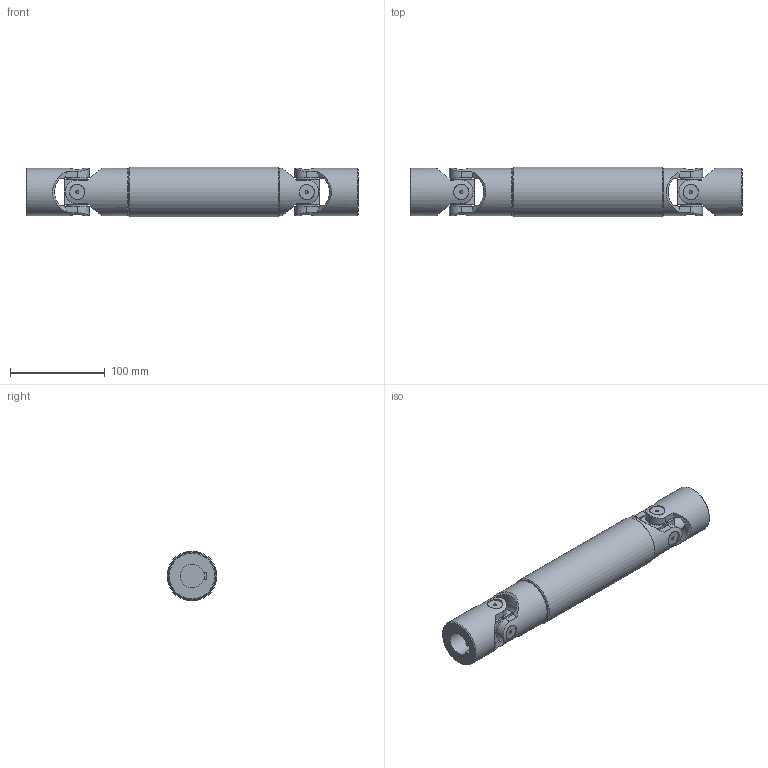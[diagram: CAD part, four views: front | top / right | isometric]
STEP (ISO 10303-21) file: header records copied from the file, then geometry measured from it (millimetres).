
FILE_DESCRIPTION(/* description */ (''),/* implementation_level */ '2;1');
FILE_NAME(/* name */ '\\SRV2016\Societa\Stefano\Disegni 3D\00Catalogo 3D\03Trasmissioni standard GA\5GA20\5GA20_SG0A2520.stp',/* time_stamp */ '2022-03-15T16:30:15+01:00',/* author */ ('acquisti'),/* organization */ (''),/* preprocessor_version */ 'ST-DEVELOPER v15.6',/* originating_system */ 'Autodesk Inventor 2015',/* authorisation */ '');
FILE_SCHEMA (('AUTOMOTIVE_DESIGN { 1 0 10303 214 3 1 1 }'));
Length unit declared in the file: millimetre
Products named in the file (5): 5G MOC; 5G SFE; 5GA20 LAI; 5GA20 LCI; 5GA20_SG0A2520
Assembly tree (6 placements, depth 2):
  5GA20_SG0A2520
    5G MOC  x2
    5G SFE  x2
    5GA20 LAI
    5GA20 LCI
Bounding box: 350 x 52.5 x 52.5 mm (x, y, z)
Volume: 495568.3 mm3; surface area: 125056.3 mm2
Topology: 6 solids, 6 shells, 204 faces, 513 edges, 345 vertices
Faces by surface type: plane 108, cylinder 68, cone 24, torus 4
Full cylindrical faces by diameter (mm): 3 x8, 16 x8, 23 x8, 28 x1, 32.4 x1, 45 x1, 50 x4, 52.5 x1
Entity records: 5370 total; most frequent: CARTESIAN_POINT 1605, DIRECTION 751, ORIENTED_EDGE 742, EDGE_CURVE 371, AXIS2_PLACEMENT_3D 299, VERTEX_POINT 269, EDGE_LOOP 210, FACE_OUTER_BOUND 158
